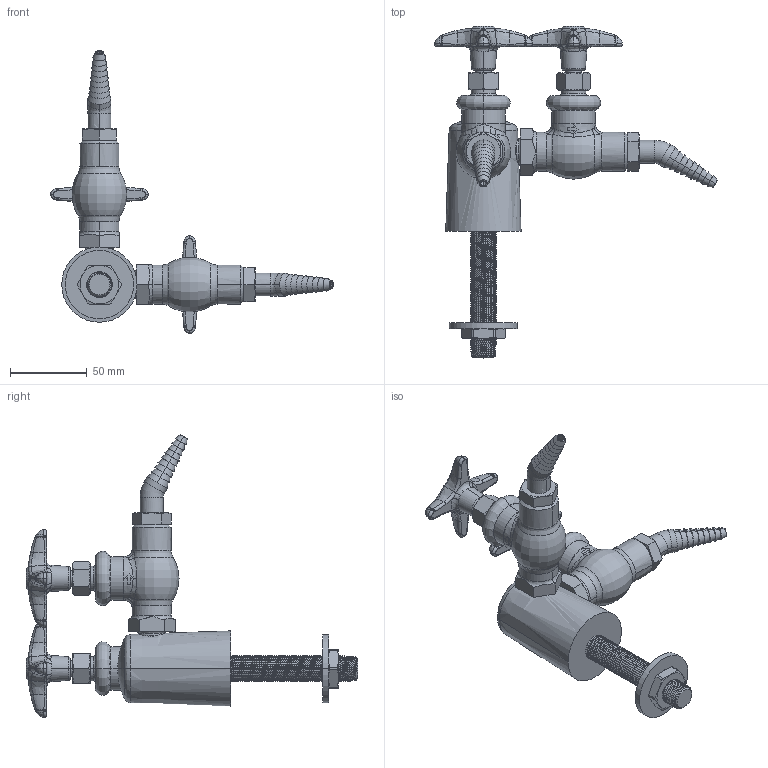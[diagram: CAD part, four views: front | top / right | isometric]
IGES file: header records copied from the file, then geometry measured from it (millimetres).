
Start section:  PTC IGES file: LGF1-A22H-20.igs
Global section: file name: LGF1-A22H-20.igs; native system: Creo Parametric by PTC Inc.; preprocessor: 2014500; author: usch_engrender; organization: Unknown; date: 20160106.181249; units: inch
Bounding box: 183.89 x 215.83 x 183.89 mm (x, y, z)
Volume: 299635 mm3; surface area: 68636.3 mm2
Topology: 1 solids, 10 shells, 837 faces, 1970 edges, 1191 vertices
Faces by surface type: bspline 457, revolution 380
